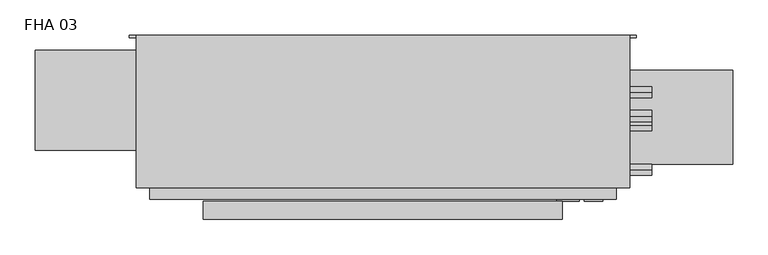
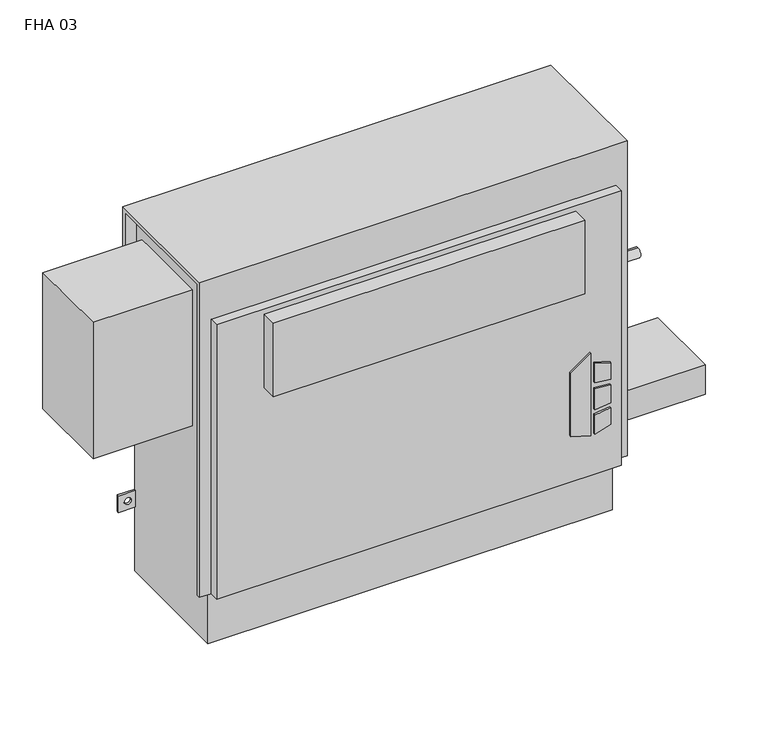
"""IFC4 building model written with IfcOpenShell, lengths in millimetres: proxy geometry, Vertical_Fan_Coil_Unit_-_FHA_-_IEC_-_4-Pipe_FS-FR_RH_2022 : FHA 03."""

import ifcopenshell
import ifcopenshell.guid

model = None  # the IFC model being written
_history = None  # IfcOwnerHistory: only IFC2X3 demands one
_inside = {}  # id of a spatial element -> (the spatial element, [elements in it])
_under = {}  # id of a project, library or spatial element -> (it, [spatial elements below it])
_declared = {}  # id of a project -> (the project, [libraries it declares])
_typed = {}  # id of a type object -> (the type object, [elements of that type])
_made_of = {}  # id of a material, layer set ... -> (it, [elements and type objects made of it])


def new_model(schema):
    """Start an empty IFC model of exactly this schema.

    Asked for "IFC4X3", IfcOpenShell would pick the latest addendum, in which some entities
    have other attributes; the version numbers below select the first issue.
    IFC2X3 requires an IfcOwnerHistory on every rooted entity: one is made here for all.
    """
    global model, _history
    if schema == "IFC4X3":
        model = ifcopenshell.file(schema_version=(4, 3, 0, 0))
    else:
        model = ifcopenshell.file(schema=schema)
    _inside.clear()
    _under.clear()
    _declared.clear()
    _typed.clear()
    _made_of.clear()
    _history = None
    if model.schema == "IFC2X3":
        org = make("IfcOrganization", Name="unknown")
        user = make(
            "IfcPersonAndOrganization",
            ThePerson=make("IfcPerson", FamilyName="unknown"),
            TheOrganization=org,
        )
        app = make(
            "IfcApplication",
            ApplicationDeveloper=org,
            Version="unknown",
            ApplicationFullName="unknown",
            ApplicationIdentifier="unknown",
        )
        _history = make(
            "IfcOwnerHistory",
            OwningUser=user,
            OwningApplication=app,
            ChangeAction="ADDED",
            CreationDate=0,
        )
    return model


def make(cls, **values):
    """One entity of the class cls with the attributes given. An attribute that is None is left unset."""
    return model.create_entity(
        cls, **{name: value for name, value in values.items() if value is not None}
    )


def rooted(cls, **values):
    """An entity with a GlobalId (a new one), such as an element, a storey or a relation."""
    return make(cls, GlobalId=ifcopenshell.guid.new(), OwnerHistory=_history, **values)


def si_unit(unit_type, name, prefix=None):
    """IfcSIUnit, for example si_unit("LENGTHUNIT", "METRE", prefix="MILLI")."""
    return make("IfcSIUnit", UnitType=unit_type, Prefix=prefix, Name=name)


def assignment(units):
    """IfcUnitAssignment: the units of a project."""
    return None if units is None else make("IfcUnitAssignment", Units=units)


def point(xyz):
    """IfcCartesianPoint."""
    return None if xyz is None else make("IfcCartesianPoint", Coordinates=xyz)


def direction(xyz):
    """IfcDirection."""
    return None if xyz is None else make("IfcDirection", DirectionRatios=xyz)


def frame(location, z_axis=None, x_axis=None):
    """IfcAxis2Placement3D, a coordinate frame: its origin and axes. An axis left out is left unset."""
    return make(
        "IfcAxis2Placement3D",
        Location=point(location),
        Axis=direction(z_axis),
        RefDirection=direction(x_axis),
    )


def frame_2d(location, x_axis=None):
    """IfcAxis2Placement2D, a coordinate frame in the plane: its origin and x axis."""
    return make(
        "IfcAxis2Placement2D", Location=point(location), RefDirection=direction(x_axis)
    )


def origin():
    """The frame at (0, 0, 0) with its axes left unset."""
    return frame((0.0, 0.0, 0.0))


def place(relative_to, where):
    """IfcLocalPlacement: puts the frame where relative to a parent placement (None: the world)."""
    return make(
        "IfcLocalPlacement", PlacementRelTo=relative_to, RelativePlacement=where
    )


def context(
    kind, dimensions, precision=None, world=None, true_north=None, identifier=None
):
    """IfcGeometricRepresentationContext, for example the 3D "Model" context."""
    return make(
        "IfcGeometricRepresentationContext",
        ContextIdentifier=identifier,
        ContextType=kind,
        CoordinateSpaceDimension=dimensions,
        Precision=precision,
        WorldCoordinateSystem=world,
        TrueNorth=true_north,
    )


def project(units=None, contexts=None):
    """IfcProject with its units and contexts."""
    return rooted(
        "IfcProject",
        Name="project",
        RepresentationContexts=contexts,
        UnitsInContext=assignment(units),
    )


def spatial(cls, under=None, at=None, **own):
    """A site, building, storey or space (cls), placed at a placement, below another one or the project."""
    s = rooted(cls, ObjectPlacement=at, **own)
    if under is not None:
        _under.setdefault(under.id(), (under, []))[1].append(s)
    return s


def polyline(points):
    """IfcPolyline through the points."""
    return make("IfcPolyline", Points=[point(p) for p in points])


def circle_curve(where, radius):
    """IfcCircle in the frame where."""
    return make("IfcCircle", Position=where, Radius=radius)


def trimmed(basis, trim1, trim2, sense, master):
    """IfcTrimmedCurve: the piece of a basis curve between two trims."""
    return make(
        "IfcTrimmedCurve",
        BasisCurve=basis,
        Trim1=trim1,
        Trim2=trim2,
        SenseAgreement=sense,
        MasterRepresentation=master,
    )


def segment(curve, same_sense, transition):
    """IfcCompositeCurveSegment."""
    return make(
        "IfcCompositeCurveSegment",
        Transition=transition,
        SameSense=same_sense,
        ParentCurve=curve,
    )


def composite_curve(segments, self_intersect=None):
    """IfcCompositeCurve: segments joined end to end."""
    return make("IfcCompositeCurve", Segments=segments, SelfIntersect=self_intersect)


def outline(outer, holes=None, kind="AREA"):
    """IfcArbitraryClosedProfileDef: a profile drawn as a closed curve; with holes, ...WithVoids."""
    if holes is None:
        return make("IfcArbitraryClosedProfileDef", ProfileType=kind, OuterCurve=outer)
    return make(
        "IfcArbitraryProfileDefWithVoids",
        ProfileType=kind,
        OuterCurve=outer,
        InnerCurves=holes,
    )


def extrude(swept, where, along, depth):
    """IfcExtrudedAreaSolid: the profile swept, set in the frame where, extruded along a direction by depth."""
    return make(
        "IfcExtrudedAreaSolid",
        SweptArea=swept,
        Position=where,
        ExtrudedDirection=direction(along),
        Depth=depth,
    )


def shape(context_of_items, identifier, shape_type, items):
    """IfcShapeRepresentation: the items that make up one representation, for example the "Body"."""
    return make(
        "IfcShapeRepresentation",
        ContextOfItems=context_of_items,
        RepresentationIdentifier=identifier,
        RepresentationType=shape_type,
        Items=items,
    )


def source(mapping_origin, context_of_items, identifier, shape_type, items):
    """IfcRepresentationMap: a shape defined once, which mapped items show again and again."""
    return make(
        "IfcRepresentationMap",
        MappingOrigin=mapping_origin,
        MappedRepresentation=shape(context_of_items, identifier, shape_type, items),
    )


def transform(
    local_origin,
    x_axis=None,
    y_axis=None,
    z_axis=None,
    scale=None,
    scale2=None,
    scale3=None,
    uniform=True,
):
    """IfcCartesianTransformationOperator3D, or its non-uniform kind. x_axis, y_axis, z_axis: its Axis1, 2, 3."""
    if uniform:
        return make(
            "IfcCartesianTransformationOperator3D",
            Axis1=direction(x_axis),
            Axis2=direction(y_axis),
            LocalOrigin=point(local_origin),
            Scale=scale,
            Axis3=direction(z_axis),
        )
    return make(
        "IfcCartesianTransformationOperator3DnonUniform",
        Axis1=direction(x_axis),
        Axis2=direction(y_axis),
        LocalOrigin=point(local_origin),
        Scale=scale,
        Axis3=direction(z_axis),
        Scale2=scale2,
        Scale3=scale3,
    )


def mapped(mapping_source, mapping_target):
    """IfcMappedItem: shows the shape of a source again, moved by a transform."""
    return make(
        "IfcMappedItem", MappingSource=mapping_source, MappingTarget=mapping_target
    )


def made_of(thing, what):
    """Note that an element or type object is made of a material, layer set ...; save() writes the relation."""
    if what is not None:
        _made_of.setdefault(what.id(), (what, []))[1].append(thing)
    return thing


def element(
    cls,
    number,
    at=None,
    inside=None,
    cuts=None,
    type_object=None,
    material=None,
    context=None,
    identifier="Body",
    shape_type=None,
    held_by="IfcProductDefinitionShape",
    body=None,
    shapes=None,
    **own,
):
    """One element of the class cls, such as IfcWall. Its Tag is "e" and its number.

    at: its placement. inside: the storey or other place that contains it. cuts: it is an
    opening in that element (IfcRelVoidsElement). A single representation is given by context,
    identifier, shape_type and body (its items); several are given by shapes. held_by: the class
    of the entity that holds the representations. save() writes the other relations.
    """
    e = rooted(cls, Tag="e%d" % number, ObjectPlacement=at, **own)
    if body is not None:
        shapes = [shape(context, identifier, shape_type, body)]
    if shapes is not None:
        e.Representation = make(held_by, Representations=shapes)
    if inside is not None:
        _inside.setdefault(inside.id(), (inside, []))[1].append(e)
    if cuts is not None:
        rooted(
            "IfcRelVoidsElement", RelatingBuildingElement=cuts, RelatedOpeningElement=e
        )
    if type_object is not None:
        _typed.setdefault(type_object.id(), (type_object, []))[1].append(e)
    return made_of(e, material)


def aggregate(whole, parts):
    """IfcRelAggregates: a whole, such as a stair, and the parts it consists of."""
    return rooted("IfcRelAggregates", RelatingObject=whole, RelatedObjects=parts)


def save(model, path):
    """Write the relations noted so far, then the file.

    IfcRelAggregates (storeys below a building ...), IfcRelContainedInSpatialStructure (elements
    in a storey), IfcRelDefinesByType, IfcRelAssociatesMaterial and IfcRelDeclares: one each for
    every whole, place, type object, material and project.
    """
    for whole, parts in _under.values():
        aggregate(whole, parts)
    for where, things in _inside.values():
        rooted(
            "IfcRelContainedInSpatialStructure",
            RelatedElements=things,
            RelatingStructure=where,
        )
    for kind, things in _typed.values():
        rooted("IfcRelDefinesByType", RelatedObjects=things, RelatingType=kind)
    for what, things in _made_of.values():
        rooted("IfcRelAssociatesMaterial", RelatedObjects=things, RelatingMaterial=what)
    for by, libraries in _declared.values():
        rooted("IfcRelDeclares", RelatingContext=by, RelatedDefinitions=libraries)
    model.write(path)


def plane_surface(at):
    """IfcPlane: the flat surface through the origin of the frame at, square to its z axis."""
    return make("IfcPlane", Position=at)


def revolved_surface(curve, axis_point, axis_direction):
    """IfcSurfaceOfRevolution: the curve turned about the line through axis_point along axis_direction."""
    return make(
        "IfcSurfaceOfRevolution",
        SweptCurve=make("IfcArbitraryOpenProfileDef", ProfileType="CURVE", Curve=curve),
        AxisPosition=make("IfcAxis1Placement", Location=point(axis_point), Axis=direction(axis_direction)),
    )


def advanced_brep(points, edges, surfaces, faces):
    """IfcAdvancedBrep: a solid bounded by faces that lie on surfaces and meet in shared edges.

    An edge is (start, end): straight between two places in points (the first is 0);
    or (start, end, curve); or (start, end, curve, False) where it runs against its curve.
    A face is (place in surfaces, loops), or (place, loops, False) where it looks against
    its surface's normal. A loop lists edges by number (the first is 1), with a minus sign
    where the edge is run from its end to its start. The first loop is the outer one.
    """
    corners = [point(p) for p in points]
    vertices = [make("IfcVertexPoint", VertexGeometry=c) for c in corners]
    made = []
    for start, end, *more in edges:
        made.append(
            make(
                "IfcEdgeCurve",
                EdgeStart=vertices[start],
                EdgeEnd=vertices[end],
                EdgeGeometry=more[0] if more else make("IfcPolyline", Points=[corners[start], corners[end]]),
                SameSense=more[1] if len(more) > 1 else True,
            )
        )
    hull = []
    for where, loops, *sense in faces:
        bounds = []
        for j, loop in enumerate(loops):
            ring = [make("IfcOrientedEdge", EdgeElement=made[abs(k) - 1], Orientation=k > 0) for k in loop]
            bounds.append(
                make(
                    "IfcFaceOuterBound" if j == 0 else "IfcFaceBound",
                    Bound=make("IfcEdgeLoop", EdgeList=ring),
                    Orientation=True,
                )
            )
        hull.append(make("IfcAdvancedFace", Bounds=bounds, FaceSurface=surfaces[where], SameSense=sense[0] if sense else True))
    return make("IfcAdvancedBrep", Outer=make("IfcClosedShell", CfsFaces=hull))


def fha_03_22e4d523(model_context):
    return source(origin(), model_context, "Body", "SolidModel", [
        extrude(outline(polyline([(172.5771459, 398.5368862), (162.6290756, 430.7102728), (304.8, 430.7102728), (281.7779939, 398.5368862), (172.5771459, 398.5368862)])), frame((0.0, 9.525, 0.0), z_axis=(0.0, 1.0, 0.0), x_axis=(0.0, 0.0, 1.0)), (0.0, 0.0, 1.0), 3.175),
        extrude(outline(polyline([(251.5764313, 437.4686058), (248.3740387, 463.55), (277.6028798, 463.55), (285.6672948, 437.4686058), (251.5764313, 437.4686058)])), frame((0.0, 9.525, 0.0), z_axis=(0.0, 1.0, 0.0), x_axis=(0.0, 0.0, 1.0)), (0.0, 0.0, 1.0), 3.175),
        extrude(outline(polyline([(199.7129044, 463.55), (196.0474034, 437.4686058), (162.6290756, 437.4686058), (171.2633128, 463.55), (199.7129044, 463.55)])), frame((0.0, 9.525, 0.0), z_axis=(0.0, 1.0, 0.0), x_axis=(0.0, 0.0, 1.0)), (0.0, 0.0, 1.0), 3.175),
        extrude(outline(polyline([(239.0280658, 463.55), (241.3098921, 437.4686058), (205.3723436, 437.4686058), (208.1136086, 463.55), (239.0280658, 463.55)])), frame((0.0, 9.525, 0.0), z_axis=(0.0, 1.0, 0.0), x_axis=(0.0, 0.0, 1.0)), (0.0, 0.0, 1.0), 3.175),
        extrude(outline(composite_curve([segment(trimmed(circle_curve(frame_2d((546.1, 128.5875)), 9.525), [point((536.575, 128.5875))], [point((555.625, 128.5875))], False, "CARTESIAN"), True, "CONTINUOUS"), segment(trimmed(circle_curve(frame_2d((546.1, 128.5875)), 9.525), [point((555.625, 128.5875))], [point((536.575, 128.5875))], False, "CARTESIAN"), True, "CONTINUOUS")], self_intersect=False)), frame((0.0, 0.0, 101.6), z_axis=(0.0, 0.0, 1.0), x_axis=(1.0, 0.0, 0.0)), (0.0, 0.0, 1.0), 25.4),
        extrude(outline(polyline([(647.7, 195.2625), (647.7, 61.9125), (482.6, 61.9125), (482.6, 195.2625), (647.7, 195.2625)])), frame((0.0, 0.0, 127.0), z_axis=(0.0, 0.0, 1.0), x_axis=(1.0, 0.0, 0.0)), (0.0, 0.0, 1.0), 50.8),
        extrude(outline(polyline([(406.4, -15.875), (-101.6, -15.875), (-101.6, 9.525), (406.4, 9.525), (406.4, -15.875)])), frame((0.0, 0.0, 431.8), z_axis=(0.0, 0.0, 1.0), x_axis=(1.0, 0.0, 0.0)), (0.0, 0.0, 1.0), 127.0),
        extrude(outline(composite_curve([segment(trimmed(circle_curve(frame_2d((117.475, 472.44)), 7.9375), [point((117.475, 464.5025))], [point((117.475, 480.3775))], False, "CARTESIAN"), True, "CONTINUOUS"), segment(trimmed(circle_curve(frame_2d((117.475, 472.44)), 7.9375), [point((117.475, 480.3775))], [point((117.475, 464.5025))], False, "CARTESIAN"), True, "CONTINUOUS")], self_intersect=False)), frame((482.6, 0.0, 0.0), z_axis=(1.0, 0.0, 0.0), x_axis=(0.0, 1.0, 0.0)), (0.0, 0.0, 1.0), 50.8),
        extrude(outline(composite_curve([segment(trimmed(circle_curve(frame_2d((164.0586, 445.897)), 7.9375), [point((164.0586, 437.9595))], [point((164.0586, 453.8345))], False, "CARTESIAN"), True, "CONTINUOUS"), segment(trimmed(circle_curve(frame_2d((164.0586, 445.897)), 7.9375), [point((164.0586, 453.8345))], [point((164.0586, 437.9595))], False, "CARTESIAN"), True, "CONTINUOUS")], self_intersect=False)), frame((482.6, 0.0, 0.0), z_axis=(1.0, 0.0, 0.0), x_axis=(0.0, 1.0, 0.0)), (0.0, 0.0, 1.0), 50.8),
        extrude(outline(composite_curve([segment(trimmed(circle_curve(frame_2d((130.175, 554.99)), 7.9502), [point((130.175, 547.0398))], [point((130.175, 562.9402))], False, "CARTESIAN"), True, "CONTINUOUS"), segment(trimmed(circle_curve(frame_2d((130.175, 554.99)), 7.9502), [point((130.175, 562.9402))], [point((130.175, 547.0398))], False, "CARTESIAN"), True, "CONTINUOUS")], self_intersect=False)), frame((482.6, 0.0, 0.0), z_axis=(1.0, 0.0, 0.0), x_axis=(0.0, 1.0, 0.0)), (0.0, 0.0, 1.0), 50.8),
        extrude(outline(composite_curve([segment(trimmed(circle_curve(frame_2d((53.975, 416.56)), 7.9502), [point((53.975, 408.6098))], [point((53.975, 424.5102))], False, "CARTESIAN"), True, "CONTINUOUS"), segment(trimmed(circle_curve(frame_2d((53.975, 416.56)), 7.9502), [point((53.975, 424.5102))], [point((53.975, 408.6098))], False, "CARTESIAN"), True, "CONTINUOUS")], self_intersect=False)), frame((482.6, 0.0, 0.0), z_axis=(1.0, 0.0, 0.0), x_axis=(0.0, 1.0, 0.0)), (0.0, 0.0, 1.0), 50.8),
        extrude(outline(polyline([(-177.8, 223.266), (-177.8, 81.534), (-339.725, 81.534), (-339.725, 223.266), (-177.8, 223.266)])), frame((0.0, 0.0, 349.25), z_axis=(0.0, 0.0, 1.0), x_axis=(1.0, 0.0, 0.0)), (0.0, 0.0, 1.0), 234.95),
        advanced_brep(
        [(501.65, 244.475, 635.0), (-196.85, 244.475, 635.0), (-196.85, 28.575, 635.0), (501.65, 28.575, 635.0), (-177.8, 244.475, 0.0), (482.6, 244.475, 0.0), (482.6, 38.1, 0.0), (-177.8, 38.1, 0.0), (501.65, 244.475, 558.8), (482.6, 244.475, 558.8), (482.6, 244.475, 414.3375), (511.175, 244.475, 414.3375), (511.175, 244.475, 385.7625), (482.6, 244.475, 385.7625), (482.6, 244.475, 287.3375), (511.175, 244.475, 287.3375), (511.175, 244.475, 258.7625), (482.6, 244.475, 258.7625), (482.6, 244.475, 141.2875), (511.175, 244.475, 141.2875), (511.175, 244.475, 112.7125), (482.6, 244.475, 112.7125), (-177.8, 244.475, 112.7125), (-206.375, 244.475, 112.7125), (-206.375, 244.475, 141.2875), (-177.8, 244.475, 141.2875), (-177.8, 244.475, 258.7625), (-206.375, 244.475, 258.7625), (-206.375, 244.475, 287.3375), (-177.8, 244.475, 287.3375), (-177.8, 244.475, 385.7625), (-206.375, 244.475, 385.7625), (-206.375, 244.475, 414.3375), (-177.8, 244.475, 414.3375), (-177.8, 244.475, 558.8), (-196.85, 244.475, 558.8), (500.8626, 244.475, 127.0), (489.7374, 244.475, 127.0), (-184.9374, 244.475, 127.0), (-196.0626, 244.475, 127.0), (500.8626, 244.475, 273.05), (489.7374, 244.475, 273.05), (-184.9374, 244.475, 273.05), (-196.0626, 244.475, 273.05), (500.8626, 244.475, 400.05), (489.7374, 244.475, 400.05), (-184.9374, 244.475, 400.05), (-196.0626, 244.475, 400.05), (-196.85, 238.125, 558.8), (-196.85, 238.125, 628.65), (-196.85, 34.925, 628.65), (-196.85, 34.925, 92.075), (-196.85, 28.575, 92.075), (482.6, 12.7, 565.15), (-177.8, 12.7, 565.15), (-177.8, 12.7, 92.075), (482.6, 12.7, 92.075), (501.65, 28.575, 92.075), (501.65, 34.925, 92.075), (501.65, 34.925, 628.65), (501.65, 238.125, 628.65), (501.65, 238.125, 558.8), (-177.8, 28.575, 92.075), (-177.8, 28.575, 565.15), (482.6, 28.575, 565.15), (482.6, 28.575, 92.075), (-177.8, 34.925, 92.075), (-177.8, 38.1, 92.075), (482.6, 38.1, 92.075), (482.6, 34.925, 92.075), (482.6, 241.3, 112.7125), (482.6, 241.3, 141.2875), (482.6, 241.3, 258.7625), (482.6, 241.3, 287.3375), (482.6, 241.3, 385.7625), (482.6, 241.3, 414.3375), (482.6, 238.125, 558.8), (482.6, 238.125, 628.65), (482.6, 34.925, 628.65), (-177.8, 34.925, 628.65), (-177.8, 238.125, 628.65), (-177.8, 238.125, 558.8), (-177.8, 241.3, 414.3375), (-177.8, 241.3, 385.7625), (-177.8, 241.3, 287.3375), (-177.8, 241.3, 258.7625), (-177.8, 241.3, 141.2875), (-177.8, 241.3, 112.7125), (511.175, 241.3, 112.7125), (511.175, 241.3, 141.2875), (489.7374, 241.3, 127.0), (500.8626, 241.3, 127.0), (511.175, 241.3, 258.7625), (511.175, 241.3, 287.3375), (489.7374, 241.3, 273.05), (500.8626, 241.3, 273.05), (511.175, 241.3, 385.7625), (511.175, 241.3, 414.3375), (489.7374, 241.3, 400.05), (500.8626, 241.3, 400.05), (-206.375, 241.3, 141.2875), (-206.375, 241.3, 112.7125), (-196.0626, 241.3, 127.0), (-184.9374, 241.3, 127.0), (-206.375, 241.3, 287.3375), (-206.375, 241.3, 258.7625), (-196.0626, 241.3, 273.05), (-184.9374, 241.3, 273.05), (-206.375, 241.3, 414.3375), (-206.375, 241.3, 385.7625), (-196.0626, 241.3, 400.05), (-184.9374, 241.3, 400.05)],
        [
            (0, 1),
            (1, 2),
            (2, 3),
            (3, 0),
            (4, 5),
            (5, 6),
            (6, 7),
            (7, 4),
            (0, 8),
            (8, 9),
            (9, 10),
            (10, 11),
            (11, 12),
            (12, 13),
            (13, 14),
            (14, 15),
            (15, 16),
            (16, 17),
            (17, 18),
            (18, 19),
            (19, 20),
            (20, 21),
            (21, 5),
            (4, 22),
            (22, 23),
            (23, 24),
            (24, 25),
            (25, 26),
            (26, 27),
            (27, 28),
            (28, 29),
            (29, 30),
            (30, 31),
            (31, 32),
            (32, 33),
            (33, 34),
            (34, 35),
            (35, 1),
            (36, 37, circle_curve(frame((495.3, 244.475, 127.0), z_axis=(0.0, -1.0, 0.0), x_axis=(-1.0, 0.0, 0.0)), 5.5626)),
            (37, 36, circle_curve(frame((495.3, 244.475, 127.0), z_axis=(0.0, -1.0, 0.0), x_axis=(-1.0, 0.0, 0.0)), 5.5626)),
            (38, 39, circle_curve(frame((-190.5, 244.475, 127.0), z_axis=(0.0, -1.0, 0.0), x_axis=(-1.0, 0.0, 0.0)), 5.5626)),
            (39, 38, circle_curve(frame((-190.5, 244.475, 127.0), z_axis=(0.0, -1.0, 0.0), x_axis=(-1.0, 0.0, 0.0)), 5.5626)),
            (40, 41, circle_curve(frame((495.3, 244.475, 273.05), z_axis=(0.0, -1.0, 0.0), x_axis=(-1.0, 0.0, 0.0)), 5.5626)),
            (41, 40, circle_curve(frame((495.3, 244.475, 273.05), z_axis=(0.0, -1.0, 0.0), x_axis=(-1.0, 0.0, 0.0)), 5.5626)),
            (42, 43, circle_curve(frame((-190.5, 244.475, 273.05), z_axis=(0.0, -1.0, 0.0), x_axis=(-1.0, 0.0, 0.0)), 5.5626)),
            (43, 42, circle_curve(frame((-190.5, 244.475, 273.05), z_axis=(0.0, -1.0, 0.0), x_axis=(-1.0, 0.0, 0.0)), 5.5626)),
            (44, 45, circle_curve(frame((495.3, 244.475, 400.05), z_axis=(0.0, -1.0, 0.0), x_axis=(-1.0, 0.0, 0.0)), 5.5626)),
            (45, 44, circle_curve(frame((495.3, 244.475, 400.05), z_axis=(0.0, -1.0, 0.0), x_axis=(-1.0, 0.0, 0.0)), 5.5626)),
            (46, 47, circle_curve(frame((-190.5, 244.475, 400.05), z_axis=(0.0, -1.0, 0.0), x_axis=(-1.0, 0.0, 0.0)), 5.5626)),
            (47, 46, circle_curve(frame((-190.5, 244.475, 400.05), z_axis=(0.0, -1.0, 0.0), x_axis=(-1.0, 0.0, 0.0)), 5.5626)),
            (35, 48),
            (48, 49),
            (49, 50),
            (50, 51),
            (51, 52),
            (52, 2),
            (53, 54),
            (54, 55),
            (55, 56),
            (56, 53),
            (3, 57),
            (57, 58),
            (58, 59),
            (59, 60),
            (60, 61),
            (61, 8),
            (52, 62),
            (62, 63),
            (63, 64),
            (64, 65),
            (65, 57),
            (53, 64),
            (63, 54),
            (55, 62),
            (51, 66),
            (66, 67),
            (67, 68),
            (68, 69),
            (69, 58),
            (65, 56),
            (6, 68),
            (67, 7),
            (21, 70),
            (70, 71),
            (71, 18),
            (17, 72),
            (72, 73),
            (73, 14),
            (13, 74),
            (74, 75),
            (75, 10),
            (9, 76),
            (76, 77),
            (77, 78),
            (78, 69),
            (66, 79),
            (79, 80),
            (80, 81),
            (81, 34),
            (33, 82),
            (82, 83),
            (83, 30),
            (29, 84),
            (84, 85),
            (85, 26),
            (25, 86),
            (86, 87),
            (87, 22),
            (76, 61),
            (60, 77),
            (78, 59),
            (50, 79),
            (81, 48),
            (80, 49),
            (70, 88),
            (88, 89),
            (89, 71),
            (90, 91, circle_curve(frame((495.3, 241.3, 127.0), z_axis=(0.0, 1.0, 0.0), x_axis=(-1.0, 0.0, 0.0)), 5.5626)),
            (91, 90, circle_curve(frame((495.3, 241.3, 127.0), z_axis=(0.0, 1.0, 0.0), x_axis=(-1.0, 0.0, 0.0)), 5.5626)),
            (92, 93),
            (93, 73),
            (72, 92),
            (94, 95, circle_curve(frame((495.3, 241.3, 273.05), z_axis=(0.0, 1.0, 0.0), x_axis=(-1.0, 0.0, 0.0)), 5.5626)),
            (95, 94, circle_curve(frame((495.3, 241.3, 273.05), z_axis=(0.0, 1.0, 0.0), x_axis=(-1.0, 0.0, 0.0)), 5.5626)),
            (96, 97),
            (97, 75),
            (74, 96),
            (98, 99, circle_curve(frame((495.3, 241.3, 400.05), z_axis=(0.0, 1.0, 0.0), x_axis=(-1.0, 0.0, 0.0)), 5.5626)),
            (99, 98, circle_curve(frame((495.3, 241.3, 400.05), z_axis=(0.0, 1.0, 0.0), x_axis=(-1.0, 0.0, 0.0)), 5.5626)),
            (100, 101),
            (101, 87),
            (86, 100),
            (102, 103, circle_curve(frame((-190.5, 241.3, 127.0), z_axis=(0.0, 1.0, 0.0), x_axis=(-1.0, 0.0, 0.0)), 5.5626)),
            (103, 102, circle_curve(frame((-190.5, 241.3, 127.0), z_axis=(0.0, 1.0, 0.0), x_axis=(-1.0, 0.0, 0.0)), 5.5626)),
            (84, 104),
            (104, 105),
            (105, 85),
            (106, 107, circle_curve(frame((-190.5, 241.3, 273.05), z_axis=(0.0, 1.0, 0.0), x_axis=(-1.0, 0.0, 0.0)), 5.5626)),
            (107, 106, circle_curve(frame((-190.5, 241.3, 273.05), z_axis=(0.0, 1.0, 0.0), x_axis=(-1.0, 0.0, 0.0)), 5.5626)),
            (108, 109),
            (109, 83),
            (82, 108),
            (110, 111, circle_curve(frame((-190.5, 241.3, 400.05), z_axis=(0.0, 1.0, 0.0), x_axis=(-1.0, 0.0, 0.0)), 5.5626)),
            (111, 110, circle_curve(frame((-190.5, 241.3, 400.05), z_axis=(0.0, 1.0, 0.0), x_axis=(-1.0, 0.0, 0.0)), 5.5626)),
            (89, 19),
            (88, 20),
            (16, 92),
            (93, 15),
            (12, 96),
            (97, 11),
            (24, 100),
            (101, 23),
            (105, 27),
            (104, 28),
            (32, 108),
            (109, 31),
            (90, 37),
            (36, 91),
            (102, 39),
            (38, 103),
            (94, 41),
            (40, 95),
            (106, 43),
            (42, 107),
            (98, 45),
            (44, 99),
            (110, 47),
            (46, 111),
        ],
        [
            plane_surface(frame((-196.85, 244.475, 635.0), z_axis=(0.0, 0.0, 1.0), x_axis=(-1.0, 0.0, 0.0))),
            plane_surface(frame((-196.85, 244.475, 0.0), z_axis=(0.0, 0.0, -1.0), x_axis=(1.0, 0.0, 0.0))),
            plane_surface(frame((501.65, 244.475, 635.0), z_axis=(0.0, 1.0, 0.0), x_axis=(0.0, 0.0, -1.0))),
            plane_surface(frame((-196.85, 244.475, 635.0), z_axis=(-1.0, 0.0, 0.0), x_axis=(0.0, 0.0, -1.0))),
            plane_surface(frame((-196.85, 12.7, 635.0), z_axis=(0.0, -1.0, 0.0), x_axis=(0.0, 0.0, -1.0))),
            plane_surface(frame((501.65, 12.7, 635.0), z_axis=(1.0, 0.0, 0.0), x_axis=(0.0, 0.0, -1.0))),
            plane_surface(frame((-247.65, 28.575, 635.0), z_axis=(0.0, -1.0, 0.0), x_axis=(1.0, 0.0, 0.0))),
            plane_surface(frame((-247.65, 28.575, 565.15), z_axis=(0.0, 0.0, 1.0), x_axis=(1.0, 0.0, 0.0))),
            plane_surface(frame((-196.85, 12.7, 92.075), z_axis=(0.0, 0.0, -1.0), x_axis=(1.0, 0.0, 0.0))),
            plane_surface(frame((-196.85, 38.1, 92.075), z_axis=(0.0, -1.0, 0.0), x_axis=(1.0, 0.0, 0.0))),
            plane_surface(frame((482.6, 28.575, 92.075), z_axis=(1.0, 0.0, 0.0), x_axis=(0.0, -1.0, 0.0))),
            plane_surface(frame((-177.8, 28.575, 565.15), z_axis=(-1.0, 0.0, 0.0), x_axis=(0.0, -1.0, 0.0))),
            plane_surface(frame((482.6, 244.475, 0.0), z_axis=(1.0, 0.0, 0.0), x_axis=(0.0, -1.0, 0.0))),
            plane_surface(frame((-177.8, 244.475, 92.075), z_axis=(-1.0, 0.0, 0.0), x_axis=(0.0, -1.0, 0.0))),
            plane_surface(frame((482.6, 238.125, 628.65), z_axis=(0.0, -1.0, 0.0), x_axis=(1.0, 0.0, 0.0))),
            plane_surface(frame((482.6, 238.125, 558.8), z_axis=(0.0, 0.0, -1.0), x_axis=(1.0, 0.0, 0.0))),
            plane_surface(frame((482.6, 34.925, 92.075), z_axis=(0.0, 1.0, 0.0), x_axis=(1.0, 0.0, 0.0))),
            plane_surface(frame((482.6, 34.925, 628.65), z_axis=(0.0, 0.0, -1.0), x_axis=(1.0, 0.0, 0.0))),
            plane_surface(frame((-177.8, 34.925, 628.65), z_axis=(0.0, 1.0, 0.0), x_axis=(-1.0, 0.0, 0.0))),
            plane_surface(frame((-177.8, 244.475, 558.8), z_axis=(0.0, 0.0, -1.0), x_axis=(-1.0, 0.0, 0.0))),
            plane_surface(frame((-177.8, 238.125, 558.8), z_axis=(0.0, -1.0, 0.0), x_axis=(-1.0, 0.0, 0.0))),
            plane_surface(frame((-177.8, 238.125, 628.65), z_axis=(0.0, 0.0, -1.0), x_axis=(-1.0, 0.0, 0.0))),
            plane_surface(frame((511.175, 241.3, 141.2875), z_axis=(0.0, -1.0, 0.0), x_axis=(-1.0, 0.0, 0.0))),
            plane_surface(frame((482.6, 244.475, 141.2875), z_axis=(0.0, 0.0, 1.0), x_axis=(0.0, -1.0, 0.0))),
            plane_surface(frame((511.175, 244.475, 141.2875), z_axis=(1.0, 0.0, 0.0), x_axis=(0.0, -1.0, 0.0))),
            plane_surface(frame((511.175, 244.475, 112.7125), z_axis=(0.0, 0.0, -1.0), x_axis=(0.0, -1.0, 0.0))),
            plane_surface(frame((511.175, 244.475, 258.7625), z_axis=(0.0, 0.0, -1.0), x_axis=(0.0, -1.0, 0.0))),
            plane_surface(frame((482.6, 244.475, 287.3375), z_axis=(0.0, 0.0, 1.0), x_axis=(0.0, -1.0, 0.0))),
            plane_surface(frame((511.175, 244.475, 287.3375), z_axis=(1.0, 0.0, 0.0), x_axis=(0.0, -1.0, 0.0))),
            plane_surface(frame((511.175, 244.475, 385.7625), z_axis=(0.0, 0.0, -1.0), x_axis=(0.0, -1.0, 0.0))),
            plane_surface(frame((482.6, 244.475, 414.3375), z_axis=(0.0, 0.0, 1.0), x_axis=(0.0, -1.0, 0.0))),
            plane_surface(frame((511.175, 244.475, 414.3375), z_axis=(1.0, 0.0, 0.0), x_axis=(0.0, -1.0, 0.0))),
            plane_surface(frame((-206.375, 244.475, 141.2875), z_axis=(0.0, 0.0, 1.0), x_axis=(0.0, -1.0, 0.0))),
            plane_surface(frame((-177.8, 244.475, 112.7125), z_axis=(0.0, 0.0, -1.0), x_axis=(0.0, -1.0, 0.0))),
            plane_surface(frame((-206.375, 244.475, 112.7125), z_axis=(-1.0, 0.0, 0.0), x_axis=(0.0, -1.0, 0.0))),
            plane_surface(frame((-177.8, 244.475, 258.7625), z_axis=(0.0, 0.0, -1.0), x_axis=(0.0, -1.0, 0.0))),
            plane_surface(frame((-206.375, 244.475, 258.7625), z_axis=(-1.0, 0.0, 0.0), x_axis=(0.0, -1.0, 0.0))),
            plane_surface(frame((-206.375, 244.475, 287.3375), z_axis=(0.0, 0.0, 1.0), x_axis=(0.0, -1.0, 0.0))),
            plane_surface(frame((-206.375, 244.475, 414.3375), z_axis=(0.0, 0.0, 1.0), x_axis=(0.0, -1.0, 0.0))),
            plane_surface(frame((-177.8, 244.475, 385.7625), z_axis=(0.0, 0.0, -1.0), x_axis=(0.0, -1.0, 0.0))),
            plane_surface(frame((-206.375, 244.475, 385.7625), z_axis=(-1.0, 0.0, 0.0), x_axis=(0.0, -1.0, 0.0))),
            revolved_surface(polyline([(489.73740000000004, 241.3, 127.0), (489.73740000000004, 244.475, 127.0)]), (495.3, 244.475, 127.0), (0.0, -1.0, 0.0)),
            revolved_surface(polyline([(-196.0626, 241.3, 127.0), (-196.0626, 244.475, 127.0)]), (-190.5, 244.475, 127.0), (0.0, -1.0, 0.0)),
            revolved_surface(polyline([(489.73740000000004, 241.3, 273.05), (489.73740000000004, 244.475, 273.05)]), (495.3, 244.475, 273.05), (0.0, -1.0, 0.0)),
            revolved_surface(polyline([(-196.0626, 241.3, 273.05), (-196.0626, 244.475, 273.05)]), (-190.5, 244.475, 273.05), (0.0, -1.0, 0.0)),
            revolved_surface(polyline([(489.73740000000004, 241.3, 400.05), (489.73740000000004, 244.475, 400.05)]), (495.3, 244.475, 400.05), (0.0, -1.0, 0.0)),
            revolved_surface(polyline([(-196.0626, 241.3, 400.05), (-196.0626, 244.475, 400.05)]), (-190.5, 244.475, 400.05), (0.0, -1.0, 0.0)),
        ],
        [
            (0, [[1, 2, 3, 4]]),
            (1, [[5, 6, 7, 8]]),
            (2, [[-1, 9, 10, 11, 12, 13, 14, 15, 16, 17, 18, 19, 20, 21, 22, 23, -5, 24, 25, 26, 27, 28, 29, 30, 31, 32, 33, 34, 35, 36, 37, 38], [39, 40], [41, 42], [43, 44], [45, 46], [47, 48], [49, 50]]),
            (3, [[-2, -38, 51, 52, 53, 54, 55, 56]]),
            (4, [[57, 58, 59, 60]]),
            (5, [[-4, 61, 62, 63, 64, 65, 66, -9]]),
            (6, [[-3, -56, 67, 68, 69, 70, 71, -61]]),
            (7, [[-57, 72, -69, 73]]),
            (8, [[-59, 74, -67, -55, 75, 76, 77, 78, 79, -62, -71, 80]]),
            (9, [[-7, 81, -77, 82]]),
            (10, [[-70, -72, -60, -80]]),
            (11, [[-68, -74, -58, -73]]),
            (12, [[-6, -23, 83, 84, 85, -19, 86, 87, 88, -15, 89, 90, 91, -11, 92, 93, 94, 95, -78, -81]]),
            (13, [[-8, -82, -76, 96, 97, 98, 99, -36, 100, 101, 102, -32, 103, 104, 105, -28, 106, 107, 108, -24]]),
            (14, [[-93, 109, -65, 110]]),
            (15, [[-92, -10, -66, -109]]),
            (16, [[-95, 111, -63, -79]]),
            (17, [[-94, -110, -64, -111]]),
            (18, [[-96, -75, -54, 112]]),
            (19, [[-99, 113, -51, -37]]),
            (20, [[-98, 114, -52, -113]]),
            (21, [[-97, -112, -53, -114]]),
            (22, [[115, 116, 117, -84], [118, 119]]),
            (22, [[120, 121, -87, 122], [123, 124]]),
            (22, [[125, 126, -90, 127], [128, 129]]),
            (22, [[130, 131, -107, 132], [133, 134]]),
            (22, [[135, 136, 137, -104], [138, 139]]),
            (22, [[140, 141, -101, 142], [143, 144]]),
            (23, [[-117, 145, -20, -85]]),
            (24, [[-116, 146, -21, -145]]),
            (25, [[-115, -83, -22, -146]]),
            (26, [[-122, -86, -18, 147]]),
            (27, [[-121, 148, -16, -88]]),
            (28, [[-120, -147, -17, -148]]),
            (29, [[-127, -89, -14, 149]]),
            (30, [[-126, 150, -12, -91]]),
            (31, [[-125, -149, -13, -150]]),
            (32, [[-132, -106, -27, 151]]),
            (33, [[-131, 152, -25, -108]]),
            (34, [[-130, -151, -26, -152]]),
            (35, [[-137, 153, -29, -105]]),
            (36, [[-136, 154, -30, -153]]),
            (37, [[-135, -103, -31, -154]]),
            (38, [[-142, -100, -35, 155]]),
            (39, [[-141, 156, -33, -102]]),
            (40, [[-140, -155, -34, -156]]),
            (41, [[157, -39, 158, -118]]),
            (41, [[-157, -119, -158, -40]]),
            (42, [[159, -41, 160, -133]]),
            (42, [[-159, -134, -160, -42]]),
            (43, [[161, -43, 162, -123]]),
            (43, [[-161, -124, -162, -44]]),
            (44, [[163, -45, 164, -138]]),
            (44, [[-163, -139, -164, -46]]),
            (45, [[165, -47, 166, -128]]),
            (45, [[-165, -129, -166, -48]]),
            (46, [[167, -49, 168, -143]]),
            (46, [[-167, -144, -168, -50]]),
        ],
    ),
    ])


if __name__ == "__main__":
    model = new_model("IFC4")
    model_context = context("Model", 3, world=origin())
    ifc_project = project(units=[si_unit("LENGTHUNIT", "METRE", prefix="MILLI")], contexts=[model_context])
    site = spatial("IfcSite", under=ifc_project)
    building = spatial("IfcBuilding", under=site)
    placement = place(None, origin())
    fha_03_shape = fha_03_22e4d523(model_context)
    element("IfcBuildingElementProxy", 1, Name="Vertical_Fan_Coil_Unit_-_FHA_-_IEC_-_4-Pipe_FS-FR_RH_2022 : FHA 03", ObjectType="Vertical_Fan_Coil_Unit_-_FHA_-_IEC_-_4-Pipe_FS-FR_RH_2022 : FHA 03", at=placement, inside=building, context=model_context, shape_type="MappedRepresentation", body=[
        mapped(fha_03_shape, transform((0.0, 0.0, 0.0), x_axis=(1.0, 0.0, 0.0), y_axis=(0.0, 1.0, 0.0), z_axis=(0.0, 0.0, 1.0))),
    ])
    save(model, "model.ifc")
